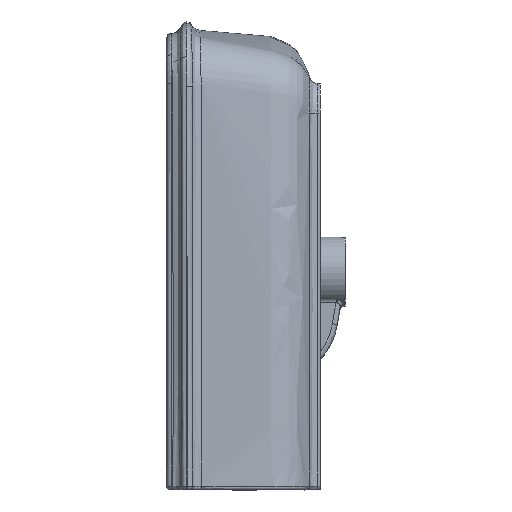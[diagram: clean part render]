
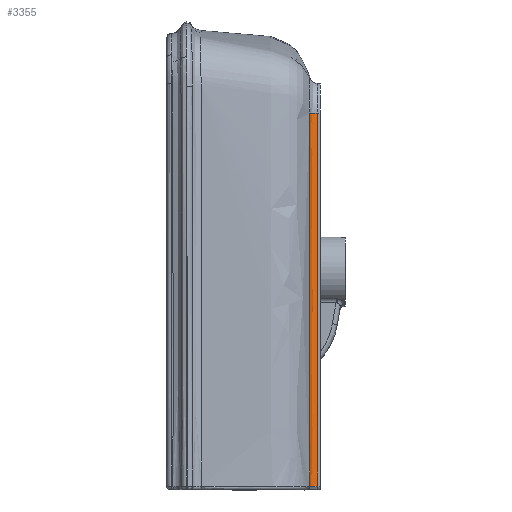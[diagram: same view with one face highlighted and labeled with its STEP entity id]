
A CAD part, left-side view. The second image highlights one B-rep face of the part: STEP entity #3355.
In plain terms, the highlighted free-form (B-spline) face has degree [3, 2] with [6, 3] control points.
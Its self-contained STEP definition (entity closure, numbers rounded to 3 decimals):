
#284 = B_SPLINE_CURVE_WITH_KNOTS ( 'NONE', 3,
 ( #9793, #3603, #9727, #2449, #485, #12928 ),
 .UNSPECIFIED., .F., .F.,
 ( 4, 2, 4 ),
 ( 0., 0.188, 0.376 ),
 .UNSPECIFIED. ) ;
#347 = CARTESIAN_POINT ( 'NONE',  ( -296.661, -144.322, -216.001 ) ) ;
#485 = CARTESIAN_POINT ( 'NONE',  ( -290., -152.227, -153.333 ) ) ;
#551 = CARTESIAN_POINT ( 'NONE',  ( -290.659, -149.022, -216. ) ) ;
#674 = DIRECTION ( 'NONE',  ( 0., 0.002, 1. ) ) ;
#1065 = CARTESIAN_POINT ( 'NONE',  ( -290., -152.226, -155.216 ) ) ;
#1189 = CARTESIAN_POINT ( 'NONE',  ( -296.359, -144.208, 159.983 ) ) ;
#1255 = CARTESIAN_POINT ( 'NONE',  ( -296.72, -144.346, -92.172 ) ) ;
#1325 = CARTESIAN_POINT ( 'NONE',  ( -290., -145.435, -92.255 ) ) ;
#1705 = CARTESIAN_POINT ( 'NONE',  ( -290., -152.209, -216. ) ) ;
#1773 = CARTESIAN_POINT ( 'NONE',  ( -290.042, -151.267, -216. ) ) ;
#1963 = CARTESIAN_POINT ( 'NONE',  ( -296.67, -144.326, 34.655 ) ) ;
#2151 = VERTEX_POINT ( 'NONE', #8438 ) ;
#2213 = ORIENTED_EDGE ( 'NONE', *, *, #8272, .F. ) ;
#2268 = CARTESIAN_POINT ( 'NONE',  ( -290., -145.45, 33.827 ) ) ;
#2413 = CARTESIAN_POINT ( 'NONE',  ( -296.359, -144.208, 159.983 ) ) ;
#2449 = CARTESIAN_POINT ( 'NONE',  ( -290., -152.243, -90.667 ) ) ;
#2793 = CARTESIAN_POINT ( 'NONE',  ( -296.196, -144.401, -216.001 ) ) ;
#2952 = EDGE_CURVE ( 'NONE', #2151, #10561, #284, .T. ) ;
#3007 = CIRCLE ( 'NONE', #6483, 8. ) ;
#3021 = ORIENTED_EDGE ( 'NONE', *, *, #5203, .T. ) ;
#3045 = CARTESIAN_POINT ( 'NONE',  ( -296.589, -144.293, 97.32 ) ) ;
#3355 = ADVANCED_FACE ( 'NONE', ( #8075 ), #7242, .F. ) ;
#3603 = CARTESIAN_POINT ( 'NONE',  ( -290., -152.171, 97.333 ) ) ;
#3876 = CARTESIAN_POINT ( 'NONE',  ( -293.624, -145.496, -216.001 ) ) ;
#3945 = CARTESIAN_POINT ( 'NONE',  ( -293.241, -145.762, -216.001 ) ) ;
#4182 = CARTESIAN_POINT ( 'NONE',  ( -290., -145.444, -155.109 ) ) ;
#4308 = CARTESIAN_POINT ( 'NONE',  ( -290., -145.454, -218.257 ) ) ;
#4521 = VERTEX_POINT ( 'NONE', #2413 ) ;
#4832 = CARTESIAN_POINT ( 'NONE',  ( -290.205, -150.351, -216. ) ) ;
#4903 = CARTESIAN_POINT ( 'NONE',  ( -295.744, -144.52, -216.001 ) ) ;
#5094 = CARTESIAN_POINT ( 'NONE',  ( -296.661, -144.322, -216.001 ) ) ;
#5203 = EDGE_CURVE ( 'NONE', #11390, #10561, #8775, .T. ) ;
#5212 = CARTESIAN_POINT ( 'NONE',  ( -290., -152.209, -218.259 ) ) ;
#5404 = ORIENTED_EDGE ( 'NONE', *, *, #2952, .F. ) ;
#5548 = CARTESIAN_POINT ( 'NONE',  ( -296.359, -144.208, 159.983 ) ) ;
#5925 = CARTESIAN_POINT ( 'NONE',  ( -290., -151.738, -216. ) ) ;
#6228 = CARTESIAN_POINT ( 'NONE',  ( -290., -152.172, 96.957 ) ) ;
#6483 = AXIS2_PLACEMENT_3D ( 'NONE', #7133, #674, #9033 ) ;
#6569 = EDGE_LOOP ( 'NONE', ( #2213, #3021, #5404, #13078 ) ) ;
#6953 = CARTESIAN_POINT ( 'NONE',  ( -294.442, -145.029, -216.001 ) ) ;
#7133 = CARTESIAN_POINT ( 'NONE',  ( -298., -152.038, 160. ) ) ;
#7242 =( BOUNDED_SURFACE ( )  B_SPLINE_SURFACE ( 3, 2, ( 
 ( #12285, #12548, #1189 ),
 ( #6228, #7445, #7510 ),
 ( #9357, #2268, #10570 ),
 ( #10376, #1325, #1255 ),
 ( #1065, #4182, #8398 ),
 ( #5212, #4308, #11592 ) ),
 .UNSPECIFIED., .F., .F., .F. ) 
 B_SPLINE_SURFACE_WITH_KNOTS ( ( 4, 2, 4 ),
 ( 3, 3 ),
 ( 0., 0.189, 0.378 ),
 ( 0., 1. ),
 .UNSPECIFIED. ) 
 GEOMETRIC_REPRESENTATION_ITEM ( )  RATIONAL_B_SPLINE_SURFACE ( (
 ( 1., 0.776, 1.),
 ( 1., 0.767, 1.),
 ( 1., 0.764, 1.),
 ( 1., 0.762, 1.),
 ( 1., 0.763, 1.),
 ( 1., 0.764, 1.) ) ) 
 REPRESENTATION_ITEM ( '' )  SURFACE ( )  );
#7445 = CARTESIAN_POINT ( 'NONE',  ( -290., -145.477, 96.185 ) ) ;
#7510 = CARTESIAN_POINT ( 'NONE',  ( -296.591, -144.293, 96.948 ) ) ;
#8040 = CARTESIAN_POINT ( 'NONE',  ( -291.317, -147.787, -216.001 ) ) ;
#8075 = FACE_OUTER_BOUND ( 'NONE', #6569, .T. ) ;
#8106 = CARTESIAN_POINT ( 'NONE',  ( -292.2, -146.694, -216.001 ) ) ;
#8272 = EDGE_CURVE ( 'NONE', #11390, #4521, #12840, .T. ) ;
#8398 = CARTESIAN_POINT ( 'NONE',  ( -296.691, -144.334, -155.214 ) ) ;
#8438 = CARTESIAN_POINT ( 'NONE',  ( -290., -152.038, 160. ) ) ;
#8775 = B_SPLINE_CURVE_WITH_KNOTS ( 'NONE', 3,
 ( #347, #2793, #4903, #9120, #6953, #3876, #3945, #12040, #12183, #8106, #10139, #8980, #8040, #8910, #10072, #551, #11097, #9048, #4832, #1773, #5925, #13138 ),
 .UNSPECIFIED., .F., .F.,
 ( 4, 2, 2, 2, 2, 2, 2, 2, 2, 2, 4 ),
 ( 0., 0.001, 0.003, 0.004, 0.005, 0.006, 0.007, 0.008, 0.008, 0.01, 0.011 ),
 .UNSPECIFIED. ) ;
#8910 = CARTESIAN_POINT ( 'NONE',  ( -290.966, -148.391, -216.001 ) ) ;
#8980 = CARTESIAN_POINT ( 'NONE',  ( -291.585, -147.406, -216.001 ) ) ;
#9033 = DIRECTION ( 'NONE',  ( 0., -1., 0.002 ) ) ;
#9048 = CARTESIAN_POINT ( 'NONE',  ( -290.326, -149.901, -216. ) ) ;
#9120 = CARTESIAN_POINT ( 'NONE',  ( -294.868, -144.833, -216.001 ) ) ;
#9357 = CARTESIAN_POINT ( 'NONE',  ( -290., -152.215, 33.914 ) ) ;
#9727 = CARTESIAN_POINT ( 'NONE',  ( -290., -152.215, 34.667 ) ) ;
#9793 = CARTESIAN_POINT ( 'NONE',  ( -290., -152.038, 160. ) ) ;
#10072 = CARTESIAN_POINT ( 'NONE',  ( -290.858, -148.598, -216.001 ) ) ;
#10126 = CARTESIAN_POINT ( 'NONE',  ( -296.692, -144.334, -153.337 ) ) ;
#10139 = CARTESIAN_POINT ( 'NONE',  ( -292.04, -146.868, -216.001 ) ) ;
#10175 = EDGE_CURVE ( 'NONE', #2151, #4521, #3007, .T. ) ;
#10329 = CARTESIAN_POINT ( 'NONE',  ( -296.72, -144.346, -90.673 ) ) ;
#10376 = CARTESIAN_POINT ( 'NONE',  ( -290., -152.243, -92.173 ) ) ;
#10561 = VERTEX_POINT ( 'NONE', #1705 ) ;
#10570 = CARTESIAN_POINT ( 'NONE',  ( -296.671, -144.326, 33.909 ) ) ;
#11097 = CARTESIAN_POINT ( 'NONE',  ( -290.568, -149.24, -216. ) ) ;
#11390 = VERTEX_POINT ( 'NONE', #13453 ) ;
#11592 = CARTESIAN_POINT ( 'NONE',  ( -296.66, -144.322, -218.257 ) ) ;
#12040 = CARTESIAN_POINT ( 'NONE',  ( -292.705, -146.208, -216.001 ) ) ;
#12183 = CARTESIAN_POINT ( 'NONE',  ( -292.532, -146.365, -216.001 ) ) ;
#12285 = CARTESIAN_POINT ( 'NONE',  ( -290., -152.038, 160. ) ) ;
#12548 = CARTESIAN_POINT ( 'NONE',  ( -290., -145.54, 159.986 ) ) ;
#12840 = B_SPLINE_CURVE_WITH_KNOTS ( 'NONE', 3,
 ( #5094, #10126, #10329, #1963, #3045, #5548 ),
 .UNSPECIFIED., .F., .F.,
 ( 4, 2, 4 ),
 ( 0.004, 0.192, 0.38 ),
 .UNSPECIFIED. ) ;
#12928 = CARTESIAN_POINT ( 'NONE',  ( -290., -152.209, -216. ) ) ;
#13078 = ORIENTED_EDGE ( 'NONE', *, *, #10175, .T. ) ;
#13138 = CARTESIAN_POINT ( 'NONE',  ( -290., -152.209, -216. ) ) ;
#13453 = CARTESIAN_POINT ( 'NONE',  ( -296.661, -144.322, -216.001 ) ) ;
